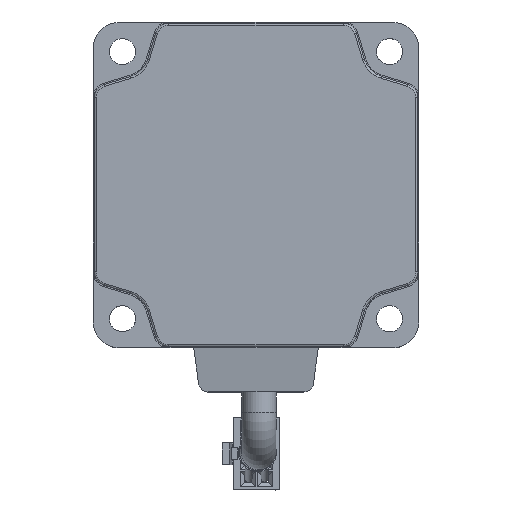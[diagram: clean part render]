
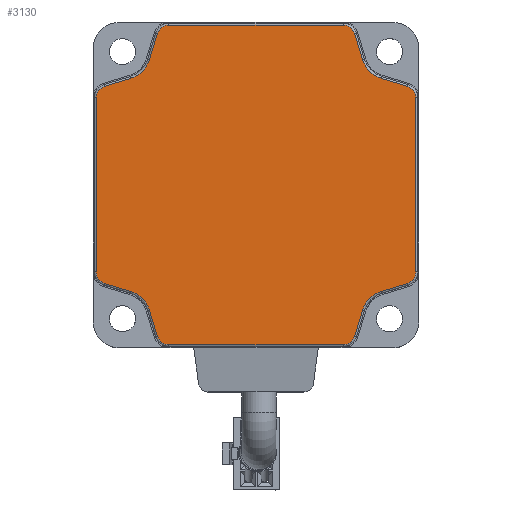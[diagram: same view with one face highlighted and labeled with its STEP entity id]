
A CAD part, top view. The second image highlights one B-rep face of the part: STEP entity #3130.
In plain terms, the highlighted planar face has unit normal (0, 0, 1).
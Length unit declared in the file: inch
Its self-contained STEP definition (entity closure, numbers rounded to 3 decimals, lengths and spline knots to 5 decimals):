
#2919=CARTESIAN_POINT('',(0.,0.,1.33858));
#2920=DIRECTION('',(0.0,0.0,1.0));
#2921=DIRECTION('',(1.0,0.0,0.0));
#2922=AXIS2_PLACEMENT_3D('',#2919,#2920,#2921);
#2923=PLANE('',#2922);
#2924=CARTESIAN_POINT('',(-0.8528,1.56496,1.33858));
#2925=VERTEX_POINT('',#2924);
#2926=CARTESIAN_POINT('',(0.8528,1.56496,1.33858));
#2927=VERTEX_POINT('',#2926);
#2928=CARTESIAN_POINT('',(-0.8528,1.56496,1.33858));
#2929=DIRECTION('',(1.0,0.0,0.0));
#2930=VECTOR('',#2929,1.7056);
#2931=LINE('',#2928,#2930);
#2932=EDGE_CURVE('',#2925,#2927,#2931,.T.);
#2933=ORIENTED_EDGE('',*,*,#2932,.F.);
#2934=CARTESIAN_POINT('',(-0.96574,1.48142,1.33858));
#2935=VERTEX_POINT('',#2934);
#2936=CARTESIAN_POINT('',(-0.8528,1.44685,1.33858));
#2937=DIRECTION('',(0.0,0.0,-1.0));
#2938=DIRECTION('',(-0.595,0.804,0.0));
#2939=AXIS2_PLACEMENT_3D('',#2936,#2937,#2938);
#2940=CIRCLE('',#2939,0.11811);
#2941=EDGE_CURVE('',#2935,#2925,#2940,.T.);
#2942=ORIENTED_EDGE('',*,*,#2941,.F.);
#2943=CARTESIAN_POINT('',(-1.04374,1.2266,1.33858));
#2944=VERTEX_POINT('',#2943);
#2945=CARTESIAN_POINT('',(-1.04374,1.2266,1.33858));
#2946=DIRECTION('',(0.293,0.956,0.0));
#2947=VECTOR('',#2946,0.2665);
#2948=LINE('',#2945,#2947);
#2949=EDGE_CURVE('',#2944,#2935,#2948,.T.);
#2950=ORIENTED_EDGE('',*,*,#2949,.F.);
#2951=CARTESIAN_POINT('',(-1.2266,1.04374,1.33858));
#2952=VERTEX_POINT('',#2951);
#2953=CARTESIAN_POINT('',(-1.30726,1.30726,1.33858));
#2954=DIRECTION('',(0.0,0.0,1.));
#2955=DIRECTION('',(0.707,-0.707,0.0));
#2956=AXIS2_PLACEMENT_3D('',#2953,#2954,#2955);
#2957=CIRCLE('',#2956,0.27559);
#2958=EDGE_CURVE('',#2952,#2944,#2957,.T.);
#2959=ORIENTED_EDGE('',*,*,#2958,.F.);
#2960=CARTESIAN_POINT('',(-1.48142,0.96574,1.33858));
#2961=VERTEX_POINT('',#2960);
#2962=CARTESIAN_POINT('',(-1.48142,0.96574,1.33858));
#2963=DIRECTION('',(0.956,0.293,0.0));
#2964=VECTOR('',#2963,0.2665);
#2965=LINE('',#2962,#2964);
#2966=EDGE_CURVE('',#2961,#2952,#2965,.T.);
#2967=ORIENTED_EDGE('',*,*,#2966,.F.);
#2968=CARTESIAN_POINT('',(-1.56496,0.8528,1.33858));
#2969=VERTEX_POINT('',#2968);
#2970=CARTESIAN_POINT('',(-1.44685,0.8528,1.33858));
#2971=DIRECTION('',(0.0,0.0,-1.));
#2972=DIRECTION('',(-0.804,0.595,0.0));
#2973=AXIS2_PLACEMENT_3D('',#2970,#2971,#2972);
#2974=CIRCLE('',#2973,0.11811);
#2975=EDGE_CURVE('',#2969,#2961,#2974,.T.);
#2976=ORIENTED_EDGE('',*,*,#2975,.F.);
#2977=CARTESIAN_POINT('',(-1.56496,-0.8528,1.33858));
#2978=VERTEX_POINT('',#2977);
#2979=CARTESIAN_POINT('',(-1.56496,-0.8528,1.33858));
#2980=DIRECTION('',(0.0,1.0,0.0));
#2981=VECTOR('',#2980,1.7056);
#2982=LINE('',#2979,#2981);
#2983=EDGE_CURVE('',#2978,#2969,#2982,.T.);
#2984=ORIENTED_EDGE('',*,*,#2983,.F.);
#2985=CARTESIAN_POINT('',(-1.48142,-0.96574,1.33858));
#2986=VERTEX_POINT('',#2985);
#2987=CARTESIAN_POINT('',(-1.44685,-0.8528,1.33858));
#2988=DIRECTION('',(0.0,0.0,-1.0));
#2989=DIRECTION('',(-0.804,-0.595,0.0));
#2990=AXIS2_PLACEMENT_3D('',#2987,#2988,#2989);
#2991=CIRCLE('',#2990,0.11811);
#2992=EDGE_CURVE('',#2986,#2978,#2991,.T.);
#2993=ORIENTED_EDGE('',*,*,#2992,.F.);
#2994=CARTESIAN_POINT('',(-1.2266,-1.04374,1.33858));
#2995=VERTEX_POINT('',#2994);
#2996=CARTESIAN_POINT('',(-1.2266,-1.04374,1.33858));
#2997=DIRECTION('',(-0.956,0.293,0.0));
#2998=VECTOR('',#2997,0.2665);
#2999=LINE('',#2996,#2998);
#3000=EDGE_CURVE('',#2995,#2986,#2999,.T.);
#3001=ORIENTED_EDGE('',*,*,#3000,.F.);
#3002=CARTESIAN_POINT('',(-1.04374,-1.2266,1.33858));
#3003=VERTEX_POINT('',#3002);
#3004=CARTESIAN_POINT('',(-1.30726,-1.30726,1.33858));
#3005=DIRECTION('',(0.0,0.0,1.0));
#3006=DIRECTION('',(0.707,0.707,0.0));
#3007=AXIS2_PLACEMENT_3D('',#3004,#3005,#3006);
#3008=CIRCLE('',#3007,0.27559);
#3009=EDGE_CURVE('',#3003,#2995,#3008,.T.);
#3010=ORIENTED_EDGE('',*,*,#3009,.F.);
#3011=CARTESIAN_POINT('',(-0.96574,-1.48142,1.33858));
#3012=VERTEX_POINT('',#3011);
#3013=CARTESIAN_POINT('',(-0.96574,-1.48142,1.33858));
#3014=DIRECTION('',(-0.293,0.956,0.0));
#3015=VECTOR('',#3014,0.2665);
#3016=LINE('',#3013,#3015);
#3017=EDGE_CURVE('',#3012,#3003,#3016,.T.);
#3018=ORIENTED_EDGE('',*,*,#3017,.F.);
#3019=CARTESIAN_POINT('',(-0.8528,-1.56496,1.33858));
#3020=VERTEX_POINT('',#3019);
#3021=CARTESIAN_POINT('',(-0.8528,-1.44685,1.33858));
#3022=DIRECTION('',(0.0,0.0,-1.0));
#3023=DIRECTION('',(-0.595,-0.804,0.0));
#3024=AXIS2_PLACEMENT_3D('',#3021,#3022,#3023);
#3025=CIRCLE('',#3024,0.11811);
#3026=EDGE_CURVE('',#3020,#3012,#3025,.T.);
#3027=ORIENTED_EDGE('',*,*,#3026,.F.);
#3028=CARTESIAN_POINT('',(0.8528,-1.56496,1.33858));
#3029=VERTEX_POINT('',#3028);
#3030=CARTESIAN_POINT('',(0.8528,-1.56496,1.33858));
#3031=DIRECTION('',(-1.0,0.0,0.0));
#3032=VECTOR('',#3031,1.7056);
#3033=LINE('',#3030,#3032);
#3034=EDGE_CURVE('',#3029,#3020,#3033,.T.);
#3035=ORIENTED_EDGE('',*,*,#3034,.F.);
#3036=CARTESIAN_POINT('',(0.96574,-1.48142,1.33858));
#3037=VERTEX_POINT('',#3036);
#3038=CARTESIAN_POINT('',(0.8528,-1.44685,1.33858));
#3039=DIRECTION('',(0.0,0.0,-1.0));
#3040=DIRECTION('',(0.595,-0.804,0.0));
#3041=AXIS2_PLACEMENT_3D('',#3038,#3039,#3040);
#3042=CIRCLE('',#3041,0.11811);
#3043=EDGE_CURVE('',#3037,#3029,#3042,.T.);
#3044=ORIENTED_EDGE('',*,*,#3043,.F.);
#3045=CARTESIAN_POINT('',(1.04374,-1.2266,1.33858));
#3046=VERTEX_POINT('',#3045);
#3047=CARTESIAN_POINT('',(1.04374,-1.2266,1.33858));
#3048=DIRECTION('',(-0.293,-0.956,0.0));
#3049=VECTOR('',#3048,0.2665);
#3050=LINE('',#3047,#3049);
#3051=EDGE_CURVE('',#3046,#3037,#3050,.T.);
#3052=ORIENTED_EDGE('',*,*,#3051,.F.);
#3053=CARTESIAN_POINT('',(1.2266,-1.04374,1.33858));
#3054=VERTEX_POINT('',#3053);
#3055=CARTESIAN_POINT('',(1.30726,-1.30726,1.33858));
#3056=DIRECTION('',(0.0,0.0,1.0));
#3057=DIRECTION('',(-0.707,0.707,0.0));
#3058=AXIS2_PLACEMENT_3D('',#3055,#3056,#3057);
#3059=CIRCLE('',#3058,0.27559);
#3060=EDGE_CURVE('',#3054,#3046,#3059,.T.);
#3061=ORIENTED_EDGE('',*,*,#3060,.F.);
#3062=CARTESIAN_POINT('',(1.48142,-0.96574,1.33858));
#3063=VERTEX_POINT('',#3062);
#3064=CARTESIAN_POINT('',(1.48142,-0.96574,1.33858));
#3065=DIRECTION('',(-0.956,-0.293,0.0));
#3066=VECTOR('',#3065,0.2665);
#3067=LINE('',#3064,#3066);
#3068=EDGE_CURVE('',#3063,#3054,#3067,.T.);
#3069=ORIENTED_EDGE('',*,*,#3068,.F.);
#3070=CARTESIAN_POINT('',(1.56496,-0.8528,1.33858));
#3071=VERTEX_POINT('',#3070);
#3072=CARTESIAN_POINT('',(1.44685,-0.8528,1.33858));
#3073=DIRECTION('',(0.0,0.0,-1.));
#3074=DIRECTION('',(0.804,-0.595,0.0));
#3075=AXIS2_PLACEMENT_3D('',#3072,#3073,#3074);
#3076=CIRCLE('',#3075,0.11811);
#3077=EDGE_CURVE('',#3071,#3063,#3076,.T.);
#3078=ORIENTED_EDGE('',*,*,#3077,.F.);
#3079=CARTESIAN_POINT('',(1.56496,0.8528,1.33858));
#3080=VERTEX_POINT('',#3079);
#3081=CARTESIAN_POINT('',(1.56496,0.8528,1.33858));
#3082=DIRECTION('',(0.0,-1.0,0.0));
#3083=VECTOR('',#3082,1.7056);
#3084=LINE('',#3081,#3083);
#3085=EDGE_CURVE('',#3080,#3071,#3084,.T.);
#3086=ORIENTED_EDGE('',*,*,#3085,.F.);
#3087=CARTESIAN_POINT('',(1.48142,0.96574,1.33858));
#3088=VERTEX_POINT('',#3087);
#3089=CARTESIAN_POINT('',(1.44685,0.8528,1.33858));
#3090=DIRECTION('',(0.0,0.0,-1.0));
#3091=DIRECTION('',(0.804,0.595,0.0));
#3092=AXIS2_PLACEMENT_3D('',#3089,#3090,#3091);
#3093=CIRCLE('',#3092,0.11811);
#3094=EDGE_CURVE('',#3088,#3080,#3093,.T.);
#3095=ORIENTED_EDGE('',*,*,#3094,.F.);
#3096=CARTESIAN_POINT('',(1.2266,1.04374,1.33858));
#3097=VERTEX_POINT('',#3096);
#3098=CARTESIAN_POINT('',(1.2266,1.04374,1.33858));
#3099=DIRECTION('',(0.956,-0.293,0.0));
#3100=VECTOR('',#3099,0.2665);
#3101=LINE('',#3098,#3100);
#3102=EDGE_CURVE('',#3097,#3088,#3101,.T.);
#3103=ORIENTED_EDGE('',*,*,#3102,.F.);
#3104=CARTESIAN_POINT('',(1.04374,1.2266,1.33858));
#3105=VERTEX_POINT('',#3104);
#3106=CARTESIAN_POINT('',(1.30726,1.30726,1.33858));
#3107=DIRECTION('',(0.0,0.0,1.));
#3108=DIRECTION('',(-0.707,-0.707,0.0));
#3109=AXIS2_PLACEMENT_3D('',#3106,#3107,#3108);
#3110=CIRCLE('',#3109,0.27559);
#3111=EDGE_CURVE('',#3105,#3097,#3110,.T.);
#3112=ORIENTED_EDGE('',*,*,#3111,.F.);
#3113=CARTESIAN_POINT('',(0.96574,1.48142,1.33858));
#3114=VERTEX_POINT('',#3113);
#3115=CARTESIAN_POINT('',(0.96574,1.48142,1.33858));
#3116=DIRECTION('',(0.293,-0.956,0.0));
#3117=VECTOR('',#3116,0.2665);
#3118=LINE('',#3115,#3117);
#3119=EDGE_CURVE('',#3114,#3105,#3118,.T.);
#3120=ORIENTED_EDGE('',*,*,#3119,.F.);
#3121=CARTESIAN_POINT('',(0.8528,1.44685,1.33858));
#3122=DIRECTION('',(0.0,0.0,-1.0));
#3123=DIRECTION('',(0.595,0.804,0.0));
#3124=AXIS2_PLACEMENT_3D('',#3121,#3122,#3123);
#3125=CIRCLE('',#3124,0.11811);
#3126=EDGE_CURVE('',#2927,#3114,#3125,.T.);
#3127=ORIENTED_EDGE('',*,*,#3126,.F.);
#3128=EDGE_LOOP('',(#2933,#2942,#2950,#2959,#2967,#2976,#2984,#2993,#3001,#3010,#3018,#3027,#3035,#3044,#3052,#3061,#3069,#3078,#3086,#3095,#3103,#3112,#3120,#3127));
#3129=FACE_OUTER_BOUND('',#3128,.T.);
#3130=ADVANCED_FACE('',(#3129),#2923,.T.);
